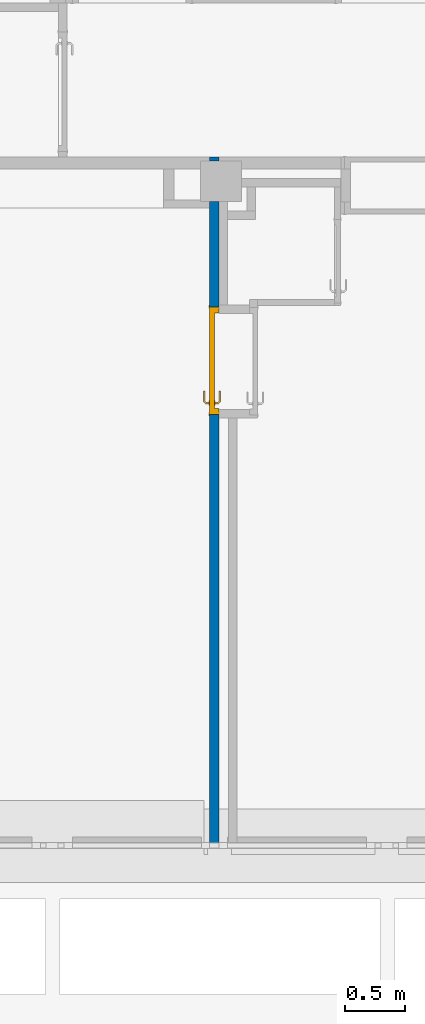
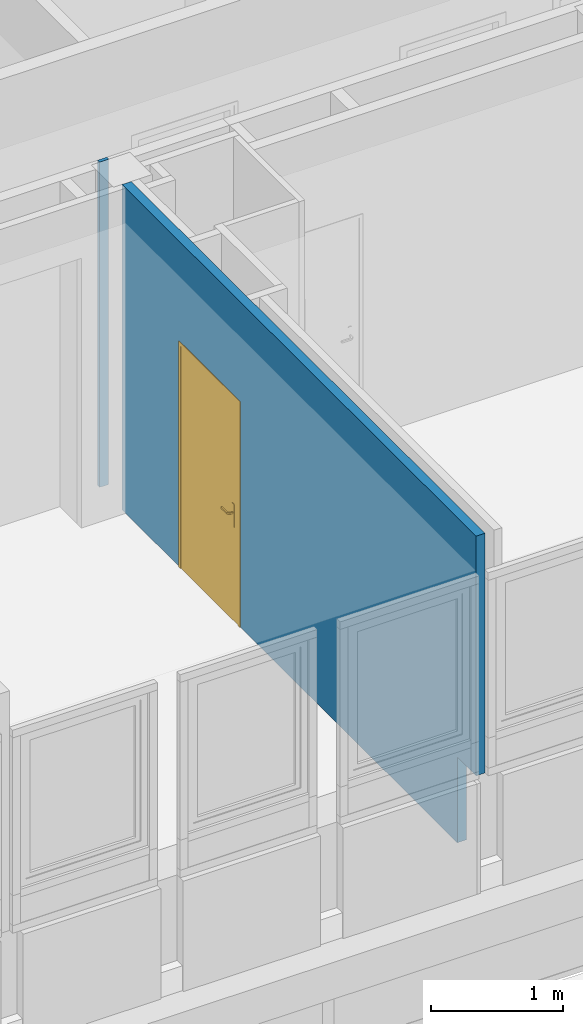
# One storey, part 57 of 97: 1 door, 1 wall, 1 opening.
"""IFC4 building model written with IfcOpenShell, lengths in metres."""

import ifcopenshell
import ifcopenshell.guid

model = None  # the IFC model being written
_history = None  # IfcOwnerHistory: only IFC2X3 demands one
_inside = {}  # id of a spatial element -> (the spatial element, [elements in it])
_under = {}  # id of a project, library or spatial element -> (it, [spatial elements below it])
_declared = {}  # id of a project -> (the project, [libraries it declares])
_typed = {}  # id of a type object -> (the type object, [elements of that type])
_made_of = {}  # id of a material, layer set ... -> (it, [elements and type objects made of it])


def new_model(schema):
    """Start an empty IFC model of exactly this schema.

    Asked for "IFC4X3", IfcOpenShell would pick the latest addendum, in which some entities
    have other attributes; the version numbers below select the first issue.
    IFC2X3 requires an IfcOwnerHistory on every rooted entity: one is made here for all.
    """
    global model, _history
    if schema == "IFC4X3":
        model = ifcopenshell.file(schema_version=(4, 3, 0, 0))
    else:
        model = ifcopenshell.file(schema=schema)
    _inside.clear()
    _under.clear()
    _declared.clear()
    _typed.clear()
    _made_of.clear()
    _history = None
    if model.schema == "IFC2X3":
        org = make("IfcOrganization", Name="unknown")
        user = make(
            "IfcPersonAndOrganization",
            ThePerson=make("IfcPerson", FamilyName="unknown"),
            TheOrganization=org,
        )
        app = make(
            "IfcApplication",
            ApplicationDeveloper=org,
            Version="unknown",
            ApplicationFullName="unknown",
            ApplicationIdentifier="unknown",
        )
        _history = make(
            "IfcOwnerHistory",
            OwningUser=user,
            OwningApplication=app,
            ChangeAction="ADDED",
            CreationDate=0,
        )
    return model


def make(cls, **values):
    """One entity of the class cls with the attributes given. An attribute that is None is left unset."""
    return model.create_entity(
        cls, **{name: value for name, value in values.items() if value is not None}
    )


def entity(cls, *values):
    """Any entity or typed value of the class cls, its attributes in the order of the schema. None: left unset."""
    e = model.create_entity(cls)
    for i, value in enumerate(values):
        if value is not None:
            e[i] = value
    return e


def rooted(cls, **values):
    """An entity with a GlobalId (a new one), such as an element, a storey or a relation."""
    return make(cls, GlobalId=ifcopenshell.guid.new(), OwnerHistory=_history, **values)


def si_unit(unit_type, name, prefix=None):
    """IfcSIUnit, for example si_unit("LENGTHUNIT", "METRE", prefix="MILLI")."""
    return make("IfcSIUnit", UnitType=unit_type, Prefix=prefix, Name=name)


def converted_unit(unit_type, name, factor, base, dimensions=None, offset=None):
    """IfcConversionBasedUnit, such as the inch: factor (a typed value) times the base unit."""
    return make(
        "IfcConversionBasedUnit"
        if offset is None
        else "IfcConversionBasedUnitWithOffset",
        ConversionOffset=offset,
        Dimensions=None
        if dimensions is None
        else entity("IfcDimensionalExponents", *dimensions),
        UnitType=unit_type,
        Name=name,
        ConversionFactor=make(
            "IfcMeasureWithUnit", ValueComponent=factor, UnitComponent=base
        ),
    )


def derived_unit(unit_type, elements):
    """IfcDerivedUnit: a product of units, each with its exponent."""
    return make(
        "IfcDerivedUnit",
        Elements=[
            make("IfcDerivedUnitElement", Unit=unit, Exponent=power)
            for unit, power in elements
        ],
        UnitType=unit_type,
    )


def assignment(units):
    """IfcUnitAssignment: the units of a project."""
    return None if units is None else make("IfcUnitAssignment", Units=units)


def point(xyz):
    """IfcCartesianPoint."""
    return None if xyz is None else make("IfcCartesianPoint", Coordinates=xyz)


def direction(xyz):
    """IfcDirection."""
    return None if xyz is None else make("IfcDirection", DirectionRatios=xyz)


def frame(location, z_axis=None, x_axis=None):
    """IfcAxis2Placement3D, a coordinate frame: its origin and axes. An axis left out is left unset."""
    return make(
        "IfcAxis2Placement3D",
        Location=point(location),
        Axis=direction(z_axis),
        RefDirection=direction(x_axis),
    )


def origin():
    """The frame at (0, 0, 0) with its axes left unset."""
    return frame((0.0, 0.0, 0.0))


def place(relative_to, where):
    """IfcLocalPlacement: puts the frame where relative to a parent placement (None: the world)."""
    return make(
        "IfcLocalPlacement", PlacementRelTo=relative_to, RelativePlacement=where
    )


def context(
    kind, dimensions, precision=None, world=None, true_north=None, identifier=None
):
    """IfcGeometricRepresentationContext, for example the 3D "Model" context."""
    return make(
        "IfcGeometricRepresentationContext",
        ContextIdentifier=identifier,
        ContextType=kind,
        CoordinateSpaceDimension=dimensions,
        Precision=precision,
        WorldCoordinateSystem=world,
        TrueNorth=true_north,
    )


def subcontext(parent, identifier, kind, view, scale=None):
    """IfcGeometricRepresentationSubContext, for example "Body" below "Model"."""
    return make(
        "IfcGeometricRepresentationSubContext",
        ContextIdentifier=identifier,
        ContextType=kind,
        ParentContext=parent,
        TargetScale=scale,
        TargetView=view,
    )


def project(units=None, contexts=None):
    """IfcProject with its units and contexts."""
    return rooted(
        "IfcProject",
        Name="project",
        RepresentationContexts=contexts,
        UnitsInContext=assignment(units),
    )


def spatial(cls, under=None, at=None, **own):
    """A site, building, storey or space (cls), placed at a placement, below another one or the project."""
    s = rooted(cls, ObjectPlacement=at, **own)
    if under is not None:
        _under.setdefault(under.id(), (under, []))[1].append(s)
    return s


def point_list(points):
    """IfcCartesianPointList2D or 3D."""
    cls = (
        "IfcCartesianPointList2D" if len(points[0]) == 2 else "IfcCartesianPointList3D"
    )
    return make(cls, CoordList=points)


def indexed_curve(points, segments=None, self_intersect=None):
    """IfcIndexedPolyCurve: lines and arcs through numbered points (the first is 1)."""
    return make(
        "IfcIndexedPolyCurve",
        Points=point_list(points),
        Segments=segments,
        SelfIntersect=self_intersect,
    )


def outline(outer, holes=None, kind="AREA"):
    """IfcArbitraryClosedProfileDef: a profile drawn as a closed curve; with holes, ...WithVoids."""
    if holes is None:
        return make("IfcArbitraryClosedProfileDef", ProfileType=kind, OuterCurve=outer)
    return make(
        "IfcArbitraryProfileDefWithVoids",
        ProfileType=kind,
        OuterCurve=outer,
        InnerCurves=holes,
    )


def extrude(swept, where, along, depth):
    """IfcExtrudedAreaSolid: the profile swept, set in the frame where, extruded along a direction by depth."""
    return make(
        "IfcExtrudedAreaSolid",
        SweptArea=swept,
        Position=where,
        ExtrudedDirection=direction(along),
        Depth=depth,
    )


def polygons(points, faces, closed=None, point_numbers=None):
    """IfcPolygonalFaceSet: a face is its outer loop, then its inner loops; points numbered from 1."""
    made = []
    for loops in faces:
        if len(loops) == 1:
            made.append(make("IfcIndexedPolygonalFace", CoordIndex=loops[0]))
        else:
            made.append(
                make(
                    "IfcIndexedPolygonalFaceWithVoids",
                    CoordIndex=loops[0],
                    InnerCoordIndices=loops[1:],
                )
            )
    return make(
        "IfcPolygonalFaceSet",
        Coordinates=point_list(points),
        Closed=closed,
        Faces=made,
        PnIndex=point_numbers,
    )


def shape(context_of_items, identifier, shape_type, items):
    """IfcShapeRepresentation: the items that make up one representation, for example the "Body"."""
    return make(
        "IfcShapeRepresentation",
        ContextOfItems=context_of_items,
        RepresentationIdentifier=identifier,
        RepresentationType=shape_type,
        Items=items,
    )


def source(mapping_origin, context_of_items, identifier, shape_type, items):
    """IfcRepresentationMap: a shape defined once, which mapped items show again and again."""
    return make(
        "IfcRepresentationMap",
        MappingOrigin=mapping_origin,
        MappedRepresentation=shape(context_of_items, identifier, shape_type, items),
    )


def transform(
    local_origin,
    x_axis=None,
    y_axis=None,
    z_axis=None,
    scale=None,
    scale2=None,
    scale3=None,
    uniform=True,
):
    """IfcCartesianTransformationOperator3D, or its non-uniform kind. x_axis, y_axis, z_axis: its Axis1, 2, 3."""
    if uniform:
        return make(
            "IfcCartesianTransformationOperator3D",
            Axis1=direction(x_axis),
            Axis2=direction(y_axis),
            LocalOrigin=point(local_origin),
            Scale=scale,
            Axis3=direction(z_axis),
        )
    return make(
        "IfcCartesianTransformationOperator3DnonUniform",
        Axis1=direction(x_axis),
        Axis2=direction(y_axis),
        LocalOrigin=point(local_origin),
        Scale=scale,
        Axis3=direction(z_axis),
        Scale2=scale2,
        Scale3=scale3,
    )


def mapped(mapping_source, mapping_target):
    """IfcMappedItem: shows the shape of a source again, moved by a transform."""
    return make(
        "IfcMappedItem", MappingSource=mapping_source, MappingTarget=mapping_target
    )


def material(Name=None, Category=None):
    """IfcMaterial."""
    return make("IfcMaterial", Name=Name, Category=Category)


def material_list(materials):
    """IfcMaterialList."""
    return make("IfcMaterialList", Materials=materials)


def layer(
    of_material, thickness, ventilated=None, Name=None, Category=None, Priority=None
):
    """IfcMaterialLayer: one layer of a wall or slab, of a material (None: an air gap)."""
    return make(
        "IfcMaterialLayer",
        Material=of_material,
        LayerThickness=thickness,
        IsVentilated=ventilated,
        Name=Name,
        Category=Category,
        Priority=Priority,
    )


def layer_set(layers, Name=None):
    """IfcMaterialLayerSet."""
    return make("IfcMaterialLayerSet", MaterialLayers=layers, LayerSetName=Name)


def constituent(of_material, Name=None, Category=None, fraction=None):
    """IfcMaterialConstituent: one of the materials an element consists of."""
    return make(
        "IfcMaterialConstituent",
        Name=Name,
        Material=of_material,
        Fraction=fraction,
        Category=Category,
    )


def constituent_set(constituents=None, Name=None):
    """IfcMaterialConstituentSet."""
    return make(
        "IfcMaterialConstituentSet", Name=Name, MaterialConstituents=constituents
    )


def made_of(thing, what):
    """Note that an element or type object is made of a material, layer set ...; save() writes the relation."""
    if what is not None:
        _made_of.setdefault(what.id(), (what, []))[1].append(thing)
    return thing


def type_object(cls, material=None, **own):
    """A type object (cls), such as IfcWallType, which elements share."""
    return made_of(rooted(cls, **own), material)


def type_shapes(of_type, sources):
    """Give a type object the sources (RepresentationMaps) that its elements show as mapped items."""
    of_type.RepresentationMaps = sources


def element(
    cls,
    number,
    at=None,
    inside=None,
    cuts=None,
    type_object=None,
    material=None,
    context=None,
    identifier="Body",
    shape_type=None,
    held_by="IfcProductDefinitionShape",
    body=None,
    shapes=None,
    **own,
):
    """One element of the class cls, such as IfcWall. Its Tag is "e" and its number.

    at: its placement. inside: the storey or other place that contains it. cuts: it is an
    opening in that element (IfcRelVoidsElement). A single representation is given by context,
    identifier, shape_type and body (its items); several are given by shapes. held_by: the class
    of the entity that holds the representations. save() writes the other relations.
    """
    e = rooted(cls, Tag="e%d" % number, ObjectPlacement=at, **own)
    if body is not None:
        shapes = [shape(context, identifier, shape_type, body)]
    if shapes is not None:
        e.Representation = make(held_by, Representations=shapes)
    if inside is not None:
        _inside.setdefault(inside.id(), (inside, []))[1].append(e)
    if cuts is not None:
        rooted(
            "IfcRelVoidsElement", RelatingBuildingElement=cuts, RelatedOpeningElement=e
        )
    if type_object is not None:
        _typed.setdefault(type_object.id(), (type_object, []))[1].append(e)
    return made_of(e, material)


def fill(opening, filler):
    """IfcRelFillsElement: the door or window that sits in an opening."""
    return rooted(
        "IfcRelFillsElement",
        RelatingOpeningElement=opening,
        RelatedBuildingElement=filler,
    )


def aggregate(whole, parts):
    """IfcRelAggregates: a whole, such as a stair, and the parts it consists of."""
    return rooted("IfcRelAggregates", RelatingObject=whole, RelatedObjects=parts)


def save(model, path):
    """Write the relations noted so far, then the file.

    IfcRelAggregates (storeys below a building ...), IfcRelContainedInSpatialStructure (elements
    in a storey), IfcRelDefinesByType, IfcRelAssociatesMaterial and IfcRelDeclares: one each for
    every whole, place, type object, material and project.
    """
    for whole, parts in _under.values():
        aggregate(whole, parts)
    for where, things in _inside.values():
        rooted(
            "IfcRelContainedInSpatialStructure",
            RelatedElements=things,
            RelatingStructure=where,
        )
    for kind, things in _typed.values():
        rooted("IfcRelDefinesByType", RelatedObjects=things, RelatingType=kind)
    for what, things in _made_of.values():
        rooted("IfcRelAssociatesMaterial", RelatedObjects=things, RelatingMaterial=what)
    for by, libraries in _declared.values():
        rooted("IfcRelDeclares", RelatingContext=by, RelatedDefinitions=libraries)
    model.write(path)


model = new_model("IFC4")

# Units and contexts
model_context = context("Model", 3, precision=1e-05, world=origin(), true_north=direction((6.12303176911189e-17, 1.0)))
body_context = subcontext(model_context, "Body", "Model", "MODEL_VIEW")
ifc_project = project(units=[si_unit("LENGTHUNIT", "METRE"), si_unit("AREAUNIT", "SQUARE_METRE"), si_unit("VOLUMEUNIT", "CUBIC_METRE"), converted_unit("PLANEANGLEUNIT", "DEGREE", entity("IfcRatioMeasure", 0.0174532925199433), si_unit("PLANEANGLEUNIT", "RADIAN"), dimensions=[0, 0, 0, 0, 0, 0, 0]), si_unit("MASSUNIT", "GRAM", prefix="KILO"), derived_unit("MASSDENSITYUNIT", [(si_unit("MASSUNIT", "GRAM", prefix="KILO"), 1), (si_unit("LENGTHUNIT", "METRE"), -3)]), derived_unit("MOMENTOFINERTIAUNIT", [(si_unit("LENGTHUNIT", "METRE"), 4)]), si_unit("TIMEUNIT", "SECOND"), si_unit("FREQUENCYUNIT", "HERTZ"), si_unit("THERMODYNAMICTEMPERATUREUNIT", "DEGREE_CELSIUS"), derived_unit("THERMALTRANSMITTANCEUNIT", [(si_unit("MASSUNIT", "GRAM", prefix="KILO"), 1), (si_unit("THERMODYNAMICTEMPERATUREUNIT", "KELVIN"), -1), (si_unit("TIMEUNIT", "SECOND"), -3)]), derived_unit("VOLUMETRICFLOWRATEUNIT", [(si_unit("LENGTHUNIT", "METRE"), 3), (si_unit("TIMEUNIT", "SECOND"), -1)]), si_unit("ELECTRICCURRENTUNIT", "AMPERE"), si_unit("ELECTRICVOLTAGEUNIT", "VOLT"), si_unit("POWERUNIT", "WATT"), si_unit("FORCEUNIT", "NEWTON", prefix="KILO"), si_unit("ILLUMINANCEUNIT", "LUX"), si_unit("LUMINOUSFLUXUNIT", "LUMEN"), si_unit("LUMINOUSINTENSITYUNIT", "CANDELA"), derived_unit("USERDEFINED", [(si_unit("MASSUNIT", "GRAM", prefix="KILO"), -1), (si_unit("LENGTHUNIT", "METRE"), -2), (si_unit("TIMEUNIT", "SECOND"), 3), (si_unit("LUMINOUSFLUXUNIT", "LUMEN"), 1)]), derived_unit("LINEARVELOCITYUNIT", [(si_unit("LENGTHUNIT", "METRE"), 1), (si_unit("TIMEUNIT", "SECOND"), -1)]), si_unit("PRESSUREUNIT", "PASCAL"), derived_unit("USERDEFINED", [(si_unit("LENGTHUNIT", "METRE"), -2), (si_unit("MASSUNIT", "GRAM", prefix="KILO"), 1), (si_unit("TIMEUNIT", "SECOND"), -2)]), derived_unit("LINEARFORCEUNIT", [(si_unit("MASSUNIT", "GRAM", prefix="KILO"), 1), (si_unit("LENGTHUNIT", "METRE"), 1), (si_unit("TIMEUNIT", "SECOND"), -2), (si_unit("LENGTHUNIT", "METRE"), -1)]), derived_unit("PLANARFORCEUNIT", [(si_unit("MASSUNIT", "GRAM", prefix="KILO"), 1), (si_unit("LENGTHUNIT", "METRE"), 1), (si_unit("TIMEUNIT", "SECOND"), -2), (si_unit("LENGTHUNIT", "METRE"), -2)])], contexts=[model_context])

# Site, building, storey
site_placement = place(None, origin())
site = spatial("IfcSite", under=ifc_project, at=site_placement, Name="Default", CompositionType="ELEMENT")
building_placement = place(site_placement, origin())
building = spatial("IfcBuilding", under=site, at=building_placement, Name="HOTEL CONSULAIRE BOULOGNE SUR MER", CompositionType="ELEMENT")
storey_placement = place(building_placement, frame((0.0, 0.0, 3.62152697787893)))
storey = spatial("IfcBuildingStorey", under=building, at=storey_placement, Name="Niveau 1", CompositionType="ELEMENT", Elevation=3.62152697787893)

# Wall, opening, door
ifc_material_1 = material(Name="Mur par défaut", Category="Divers")
ifc_layer = layer(ifc_material_1, 0.08, Name="Mur par défaut", Category="Divers")
ifc_layer_set = layer_set([ifc_layer], Name="Mur de base:Générique - Int. 80")
wall_type = type_object("IfcWallType", Name="Mur de base:Générique - Int. 80", PredefinedType="NOTDEFINED", material=ifc_layer_set)
wall_placement = place(storey_placement, frame((-1.28414453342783, -23.814691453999, 0.0), z_axis=(0.0, 0.0, 1.0), x_axis=(0.0, -1.0, 0.0)))
wall = element("IfcWall", 1, at=wall_placement, inside=storey, type_object=wall_type, material=ifc_layer_set, Name="Mur de base:Générique - Int. 80", ObjectType="Mur de base:Générique - Int. 80", PredefinedType="NOTDEFINED", context=body_context, shape_type="Tessellation", body=[
    polygons([(0.0, 0.0400000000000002, 0.0), (0.0, 0.0400000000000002, 3.01021454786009), (0.0312183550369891, 0.04, 3.01021454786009), (0.0312183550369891, 0.04, 0.0), (0.0, -0.04, 3.01021454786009), (0.0312183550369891, -0.04, 3.01021454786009), (0.0, -0.0399999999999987, 0.0), (0.0312183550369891, -0.0399999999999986, 0.0)], [[[3, 4, 1, 2]], [[5, 6, 3, 2]], [[1, 4, 8, 7]], [[5, 7, 8, 6]], [[2, 1, 7, 5]], [[8, 4, 3, 6]]], closed=True),
    polygons([(1.25321835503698, 0.0400000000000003, 0.0), (1.25321835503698, -0.040000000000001, 0.0), (0.427348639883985, -0.0400000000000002, 0.0), (0.37121835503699, -0.0400000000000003, 0.0), (0.37121835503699, 0.040000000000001, 0.0), (1.25321835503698, -0.0399999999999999, 2.075), (2.15321835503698, -0.0399999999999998, 2.075), (2.15321835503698, -0.0399999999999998, 0.0), (5.45541326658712, -0.0399999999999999, 0.0), (5.45541326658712, -0.0399999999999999, 0.791612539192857), (5.73937565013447, -0.04, 0.791612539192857), (5.73937565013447, -0.04, 3.01021454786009), (0.427348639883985, -0.0399999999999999, 3.01021454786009), (0.37121835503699, -0.04, 3.01021454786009), (1.25321835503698, 0.04, 2.075), (0.37121835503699, 0.04, 3.01021454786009), (2.113, 0.0400000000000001, 3.01021454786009), (2.183, 0.0400000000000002, 3.01021454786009), (5.73937565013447, 0.04, 3.01021454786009), (5.73937565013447, 0.04, 0.791612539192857), (5.45541326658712, 0.04, 0.791612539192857), (5.45541326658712, 0.04, 0.0), (2.183, 0.0400000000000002, 0.0), (2.15321835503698, 0.0400000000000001, 0.0), (2.15321835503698, 0.0400000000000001, 2.075)], [[[3, 4, 5, 1, 2]], [[7, 6, 15, 25]], [[11, 10, 21, 20]], [[23, 22, 9, 8, 24]], [[6, 7, 8, 9, 10, 11, 12, 13, 14, 4, 3, 2]], [[21, 22, 23, 24, 25, 15, 1, 5, 16, 17, 18, 19, 20]], [[6, 2, 1, 15]], [[10, 9, 22, 21]], [[12, 11, 20, 19]], [[8, 7, 25, 24]], [[5, 4, 14, 16]], [[13, 12, 19, 18, 17, 16, 14]]], closed=True),
])
opening_placement = place(wall_placement, frame((2.15321835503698, 0.0399999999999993, 0.0)))
opening = element("IfcOpeningElement", 2, at=opening_placement, cuts=wall, Name="Int. Simple:PP (0.83m x 2.04m):1", ObjectType="Opening", PredefinedType="OPENING", context=body_context, shape_type="SweptSolid", body=[
    extrude(outline(indexed_curve([(0.0, 0.9), (0.0, 0.0), (2.075, 0.0), (2.075, 0.9), (0.0, 0.9)], self_intersect=False)), frame((0.0, 0.0, 0.0), z_axis=(0.0, -1.0, 0.0), x_axis=(0.0, 0.0, 1.0)), (0.0, 0.0, 1.0), 0.08),
])
ifc_material_2 = material(Name="Finition Peinture - Blanc satiné", Category="Peinture")
ifc_constituent_1 = constituent(ifc_material_2, Name="Finition Peinture - Blanc satiné", Category="Matériaux")
ifc_material_3 = material(Name="Bois - Panneau de porte", Category="Bois")
ifc_constituent_2 = constituent(ifc_material_3, Name="Bois - Panneau de porte", Category="Matériaux")
ifc_material_4 = material(Name="Bois - Cadre de porte", Category="Bois")
ifc_constituent_3 = constituent(ifc_material_4, Name="Bois - Cadre de porte", Category="Matériaux")
ifc_constituent_set = constituent_set(constituents=[ifc_constituent_1, ifc_constituent_2, ifc_constituent_3], Name="MaterialConstituentSet")
ifc_material_list = material_list([ifc_material_4, ifc_material_4, ifc_material_3, ifc_material_2])
door_type = type_object("IfcDoorType", Name="Int. Simple:PP (0.83m x 2.04m)", OperationType="NOTDEFINED", PredefinedType="DOOR", material=ifc_material_list)
shared_shape = source(origin(), body_context, "Body", "Tessellation", [
    polygons([(0.895000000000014, -0.00500000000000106, 0.870000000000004), (0.895000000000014, -0.00500000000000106, 1.08), (0.885352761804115, -0.00500000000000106, 1.08399601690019), (0.875000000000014, -0.00500000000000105, 1.08535898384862), (0.864647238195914, -0.00500000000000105, 1.08399601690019), (0.855000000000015, -0.00500000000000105, 1.08), (0.855000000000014, -0.00500000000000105, 0.870000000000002), (0.864647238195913, -0.00500000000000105, 0.866003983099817), (0.875000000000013, -0.00500000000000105, 0.86464101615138), (0.885352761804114, -0.00500000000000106, 0.866003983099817), (0.895000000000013, -1.06594733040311e-15, 0.870000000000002), (0.885352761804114, -1.06594733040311e-15, 0.866003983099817), (0.875000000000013, -1.05748743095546e-15, 0.86464101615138), (0.864647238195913, -1.05748743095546e-15, 0.866003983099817), (0.855000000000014, -1.04902753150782e-15, 0.870000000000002), (0.855000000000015, -1.04902753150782e-15, 1.08), (0.864647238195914, -1.05748743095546e-15, 1.08399601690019), (0.875000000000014, -1.05748743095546e-15, 1.08535898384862), (0.885352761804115, -1.06594733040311e-15, 1.08399601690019), (0.895000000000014, -1.06594733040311e-15, 1.08)], [[[1, 2, 3, 4, 5, 6, 7, 8, 9, 10]], [[20, 11, 12, 13, 14, 15, 16, 17, 18, 19]], [[10, 12, 11, 1]], [[9, 13, 12, 10]], [[8, 14, 13, 9]], [[8, 7, 15, 14]], [[15, 7, 6, 16]], [[5, 17, 16, 6]], [[4, 18, 17, 5]], [[3, 19, 18, 4]], [[3, 2, 20, 19]], [[11, 20, 2, 1]]], closed=True),
    polygons([(0.855000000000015, 0.0399999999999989, 1.08), (0.855000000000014, 0.0399999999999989, 0.870000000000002), (0.864647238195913, 0.0399999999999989, 0.866003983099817), (0.875000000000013, 0.0399999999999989, 0.86464101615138), (0.885352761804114, 0.0399999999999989, 0.866003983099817), (0.895000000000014, 0.0399999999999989, 0.870000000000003), (0.895000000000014, 0.0399999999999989, 1.08), (0.885352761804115, 0.0399999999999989, 1.08399601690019), (0.875000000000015, 0.0399999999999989, 1.08535898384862), (0.864647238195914, 0.0399999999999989, 1.08399601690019), (0.855000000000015, 0.0449999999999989, 1.08), (0.864647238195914, 0.0449999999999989, 1.08399601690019), (0.875000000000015, 0.0449999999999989, 1.08535898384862), (0.885352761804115, 0.0449999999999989, 1.08399601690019), (0.895000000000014, 0.0449999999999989, 1.08), (0.895000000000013, 0.0449999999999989, 0.870000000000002), (0.885352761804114, 0.0449999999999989, 0.866003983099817), (0.875000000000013, 0.0449999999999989, 0.86464101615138), (0.864647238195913, 0.0449999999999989, 0.866003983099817), (0.855000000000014, 0.0449999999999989, 0.870000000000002)], [[[6, 7, 8, 9, 10, 1, 2, 3, 4, 5]], [[13, 14, 15, 16, 17, 18, 19, 20, 11, 12]], [[10, 12, 11, 1]], [[9, 13, 12, 10]], [[8, 14, 13, 9]], [[8, 7, 15, 14]], [[16, 15, 7, 6]], [[5, 17, 16, 6]], [[4, 18, 17, 5]], [[3, 19, 18, 4]], [[3, 2, 20, 19]], [[20, 2, 1, 11]]], closed=True),
    polygons([(0.881000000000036, -0.00500000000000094, 1.00699999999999), (0.881000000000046, -0.00500000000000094, 0.992999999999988), (0.877025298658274, -0.00500000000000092, 0.99221955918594), (0.872974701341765, -0.0050000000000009, 0.992219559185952), (0.868999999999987, -0.00500000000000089, 0.993000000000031), (0.868999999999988, -0.00500000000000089, 1.007), (0.872974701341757, -0.0050000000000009, 1.00778044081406), (0.877025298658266, -0.00500000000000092, 1.00778044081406), (0.868999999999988, -0.0276803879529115, 1.007), (0.872974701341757, -0.0293267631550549, 1.00778044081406), (0.877025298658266, -0.0310045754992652, 1.00778044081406), (0.881000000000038, -0.0326509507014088, 1.007), (0.868999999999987, -0.0276803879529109, 0.993000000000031), (0.881000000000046, -0.0326509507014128, 0.992999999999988), (0.877025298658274, -0.0310045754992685, 0.99221955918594), (0.872974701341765, -0.0293267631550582, 0.992219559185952), (0.85765222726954, -0.0390281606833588, 1.007), (0.859298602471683, -0.0430028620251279, 1.00778044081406), (0.860976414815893, -0.0470534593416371, 1.00778044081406), (0.862622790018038, -0.0510281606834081, 1.007), (0.857652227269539, -0.0390281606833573, 0.993000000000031), (0.862622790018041, -0.0510281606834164, 0.992999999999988), (0.860976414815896, -0.047053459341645, 0.99221955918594), (0.859298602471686, -0.0430028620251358, 0.992219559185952), (0.774981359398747, -0.0510281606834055, 1.007), (0.774981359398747, -0.0470534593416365, 1.00778044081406), (0.774981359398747, -0.0430028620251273, 1.00778044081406), (0.774981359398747, -0.0390281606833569, 1.00699999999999), (0.774981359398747, -0.0390281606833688, 0.993000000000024), (0.774981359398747, -0.0430028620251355, 0.992219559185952), (0.774981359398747, -0.0470534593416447, 0.99221955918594), (0.774981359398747, -0.0510281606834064, 0.992999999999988), (0.822692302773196, -0.051028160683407, 1.007), (0.81713998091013, -0.045028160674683, 1.0078786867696), (0.816316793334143, -0.039028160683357, 1.007), (0.822692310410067, -0.0510281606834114, 0.992999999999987), (0.817139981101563, -0.0450281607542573, 0.992121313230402), (0.816316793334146, -0.039028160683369, 0.993000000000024)], [[[7, 8, 1, 2, 3, 4, 5, 6]], [[17, 21, 38, 29, 28, 35]], [[1, 8, 11, 12]], [[8, 7, 10, 18, 19, 11]], [[7, 6, 9, 10]], [[13, 9, 6, 5]], [[25, 26, 27, 28, 29, 30, 31, 32]], [[4, 16, 13, 5]], [[4, 3, 15, 23, 24, 16]], [[2, 14, 15, 3]], [[12, 14, 2, 1]], [[12, 11, 19, 20]], [[10, 9, 17, 18]], [[21, 17, 9, 13]], [[13, 16, 24, 21]], [[15, 14, 22, 23]], [[20, 22, 14, 12]], [[34, 26, 33]], [[33, 26, 25]], [[33, 20, 19]], [[18, 35, 34]], [[35, 18, 17]], [[28, 27, 35]], [[34, 27, 26]], [[34, 35, 27]], [[34, 33, 19]], [[18, 34, 19]], [[37, 30, 38]], [[31, 37, 36]], [[24, 38, 21]], [[30, 29, 38]], [[31, 36, 32]], [[36, 23, 22]], [[37, 23, 36]], [[37, 24, 23]], [[37, 38, 24]], [[30, 37, 31]], [[22, 20, 33, 25, 32, 36]]], closed=True),
    polygons([(0.868999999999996, 0.0449999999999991, 0.993000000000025), (0.872974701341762, 0.0449999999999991, 0.992219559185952), (0.877025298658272, 0.0449999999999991, 0.99221955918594), (0.881000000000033, 0.044999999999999, 0.992999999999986), (0.881000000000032, 0.044999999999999, 1.007), (0.877025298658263, 0.0449999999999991, 1.00778044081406), (0.872974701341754, 0.0449999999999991, 1.00778044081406), (0.868999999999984, 0.0449999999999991, 1.007), (0.868999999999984, 0.067485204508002, 1.007), (0.868999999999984, 0.0674852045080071, 0.993000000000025), (0.881000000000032, 0.0724557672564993, 1.007), (0.877025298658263, 0.070809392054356, 1.00778044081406), (0.872974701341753, 0.0691315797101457, 1.00778044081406), (0.881000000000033, 0.0724557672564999, 0.992999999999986), (0.872974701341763, 0.0691315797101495, 0.992219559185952), (0.877025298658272, 0.0708093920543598, 0.99221955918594), (0.857514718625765, 0.0789704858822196, 1.007), (0.857514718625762, 0.0789704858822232, 0.993000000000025), (0.862485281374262, 0.0909704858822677, 1.007), (0.860838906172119, 0.0869957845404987, 1.00778044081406), (0.859161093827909, 0.0829451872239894, 1.00778044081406), (0.862485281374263, 0.0909704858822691, 0.992999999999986), (0.859161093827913, 0.0829451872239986, 0.992219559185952), (0.860838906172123, 0.0869957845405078, 0.99221955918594), (0.77495421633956, 0.0789704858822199, 0.993000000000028), (0.77495421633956, 0.0789704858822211, 1.007), (0.77495421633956, 0.0829451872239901, 1.00778044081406), (0.77495421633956, 0.0869957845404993, 1.00778044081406), (0.77495421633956, 0.0909704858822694, 1.007), (0.77495421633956, 0.0909704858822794, 0.992999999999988), (0.77495421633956, 0.086995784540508, 0.99221955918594), (0.77495421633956, 0.0829451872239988, 0.992219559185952), (0.822554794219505, 0.0909704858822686, 1.007), (0.817057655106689, 0.0849704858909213, 1.0078786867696), (0.816234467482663, 0.0789704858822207, 1.007), (0.822554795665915, 0.0909704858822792, 0.992999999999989), (0.817057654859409, 0.0849704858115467, 0.992121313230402), (0.816234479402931, 0.0789704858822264, 0.993000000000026)], [[[2, 3, 4, 5, 6, 7, 8, 1]], [[18, 17, 35, 26, 25, 38]], [[9, 10, 1, 8]], [[27, 28, 29, 30, 31, 32, 25, 26]], [[7, 13, 9, 8]], [[7, 6, 12, 20, 21, 13]], [[5, 11, 12, 6]], [[11, 5, 4, 14]], [[4, 3, 16, 14]], [[3, 2, 15, 23, 24, 16]], [[2, 1, 10, 15]], [[17, 18, 10, 9]], [[9, 13, 21, 17]], [[11, 19, 20, 12]], [[22, 19, 11, 14]], [[14, 16, 24, 22]], [[15, 10, 18, 23]], [[34, 27, 35]], [[28, 34, 33]], [[21, 35, 17]], [[27, 26, 35]], [[28, 33, 29]], [[33, 20, 19]], [[34, 20, 33]], [[34, 21, 20]], [[34, 35, 21]], [[27, 34, 28]], [[19, 22, 36, 30, 29, 33]], [[37, 31, 36]], [[36, 31, 30]], [[36, 22, 24]], [[23, 38, 37]], [[38, 23, 18]], [[25, 32, 38]], [[37, 32, 31]], [[37, 38, 32]], [[37, 36, 24]], [[23, 37, 24]]], closed=True),
    polygons([(0.935000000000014, 0.04, 2.04), (0.935000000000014, 0.04, 0.0), (0.105000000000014, 0.04, 0.0), (0.105000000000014, 0.04, 2.04), (0.935000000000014, 3.38395977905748e-17, 2.04), (0.105000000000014, 3.38395977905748e-17, 2.04), (0.105000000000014, 3.38395977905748e-17, 0.0), (0.935000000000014, 3.38395977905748e-17, 0.0)], [[[3, 4, 1, 2]], [[5, 6, 7, 8]], [[5, 1, 4, 6]], [[6, 4, 3, 7]], [[8, 7, 3, 2]], [[8, 2, 1, 5]]], closed=True),
    polygons([(0.970000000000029, -8.45989944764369e-18, 0.0), (0.935000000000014, -8.45989944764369e-18, 0.0), (0.935000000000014, 0.0400000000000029, 0.0), (0.920000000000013, 0.0400000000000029, 0.0), (0.920000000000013, 0.080000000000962, 0.0), (0.970000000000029, 0.080000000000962, 0.0), (0.970000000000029, 0.080000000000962, 2.07500000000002), (0.970000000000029, -8.45989944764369e-18, 2.07500000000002), (0.920000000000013, 0.080000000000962, 2.025), (0.120000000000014, 0.080000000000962, 2.025), (0.120000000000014, 0.080000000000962, 6.02669015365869e-24), (0.0699999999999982, 0.080000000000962, 9.23443718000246e-25), (0.0699999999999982, 0.080000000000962, 2.07500000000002), (0.920000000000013, 0.0400000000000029, 2.025), (0.935000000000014, 0.0400000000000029, 2.04), (0.105000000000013, 0.0400000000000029, 2.04), (0.105000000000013, 0.0400000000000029, 1.51399294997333e-24), (0.120000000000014, 0.0400000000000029, 1.99209609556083e-25), (0.120000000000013, 0.0400000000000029, 2.025), (0.935000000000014, -8.45989944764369e-18, 2.04), (0.0699999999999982, -8.45989944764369e-18, 2.07500000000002), (0.0699999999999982, -8.45989944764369e-18, 1.81925185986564e-24), (0.105000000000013, -8.45989944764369e-18, 3.40121094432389e-24), (0.105000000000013, -8.45989944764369e-18, 2.04)], [[[5, 6, 1, 2, 3, 4]], [[17, 23, 22, 12, 11, 18]], [[19, 10, 9, 14]], [[24, 16, 15, 20]], [[7, 8, 1, 6]], [[18, 11, 10, 19]], [[17, 16, 24, 23]], [[9, 10, 11, 12, 13, 7, 6, 5]], [[14, 9, 5, 4]], [[15, 3, 2, 20]], [[12, 22, 21, 13]], [[19, 14, 4, 3, 15, 16, 17, 18]], [[24, 20, 2, 1, 8, 21, 22, 23]], [[13, 21, 8, 7]]], closed=True),
    polygons([(0.955000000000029, 0.080000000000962, 1.35358391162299e-16), (0.955000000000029, 0.085000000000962, 1.35358391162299e-16), (0.985000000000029, 0.085000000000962, 1.35358391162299e-16), (0.985000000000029, 0.080000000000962, 1.35358391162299e-16), (0.985000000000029, 0.080000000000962, 2.09000000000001), (0.0550000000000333, 0.080000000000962, 2.09000000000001), (0.0550000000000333, 0.080000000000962, -5.44393448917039e-24), (0.0850000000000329, 0.080000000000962, 5.09144898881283e-24), (0.0850000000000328, 0.080000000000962, 2.06000000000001), (0.955000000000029, 0.080000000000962, 2.06000000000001), (0.985000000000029, 0.085000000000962, 2.09000000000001), (0.955000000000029, 0.085000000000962, 2.06000000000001), (0.0850000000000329, 0.085000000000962, 2.06000000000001), (0.0850000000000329, 0.085000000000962, -1.89153776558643e-24), (0.055000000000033, 0.085000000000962, 5.03766794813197e-24), (0.0550000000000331, 0.085000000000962, 2.09000000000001)], [[[2, 3, 4, 1]], [[7, 15, 14, 8]], [[13, 12, 10, 9]], [[9, 10, 1, 4, 5, 6, 7, 8]], [[11, 5, 4, 3]], [[8, 14, 13, 9]], [[12, 13, 14, 15, 16, 11, 3, 2]], [[10, 12, 2, 1]], [[15, 7, 6, 16]], [[16, 6, 5, 11]]], closed=True),
    polygons([(0.955000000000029, -0.00499999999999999, 1.35358391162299e-16), (0.955000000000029, -8.45989944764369e-18, 1.35358391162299e-16), (0.985000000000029, -8.45989944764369e-18, 1.35358391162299e-16), (0.985000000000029, -0.00499999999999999, 1.35358391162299e-16), (0.0850000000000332, -0.00499999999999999, -1.35358391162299e-16), (0.0550000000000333, -0.00499999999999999, -1.35358391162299e-16), (0.055000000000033, -8.45989944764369e-18, -1.35358391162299e-16), (0.0850000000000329, -8.45989944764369e-18, -1.35358391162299e-16), (0.985000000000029, -0.00499999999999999, 2.09000000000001), (0.0550000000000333, -0.00499999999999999, 2.09000000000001), (0.0850000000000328, -0.00499999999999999, 2.06000000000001), (0.955000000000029, -0.00499999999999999, 2.06000000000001), (0.985000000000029, -8.45989944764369e-18, 2.09000000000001), (0.955000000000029, -8.45989944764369e-18, 2.06000000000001), (0.0850000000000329, -8.45989944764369e-18, 2.06000000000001), (0.0550000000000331, -8.45989944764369e-18, 2.09000000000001)], [[[2, 3, 4, 1]], [[6, 7, 8, 5]], [[11, 15, 14, 12]], [[11, 12, 1, 4, 9, 10, 6, 5]], [[9, 4, 3, 13]], [[5, 8, 15, 11]], [[14, 15, 8, 7, 16, 13, 3, 2]], [[12, 14, 2, 1]], [[7, 6, 10, 16]], [[16, 10, 9, 13]]], closed=True),
])
type_shapes(door_type, [shared_shape])
door_placement = place(opening_placement, frame((-0.970000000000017, -0.0800000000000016, 0.0)))
door = element("IfcDoor", 3, at=door_placement, inside=storey, type_object=door_type, material=ifc_constituent_set, Name="Int. Simple:PP (0.83m x 2.04m)", ObjectType="Int. Simple:PP (0.83m x 2.04m)", OperationType="NOTDEFINED", OverallHeight=2.075, OverallWidth=0.899999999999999, PredefinedType="DOOR", context=body_context, shape_type="MappedRepresentation", body=[
    mapped(shared_shape, transform((0.0, 0.0, 0.0), scale=1.0)),
])
fill(opening, door)

save(model, "model.ifc")
